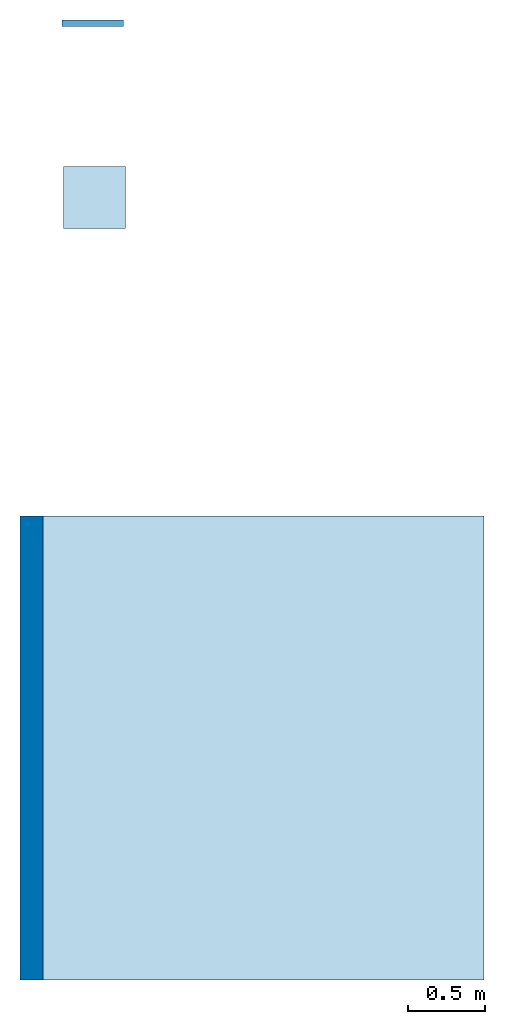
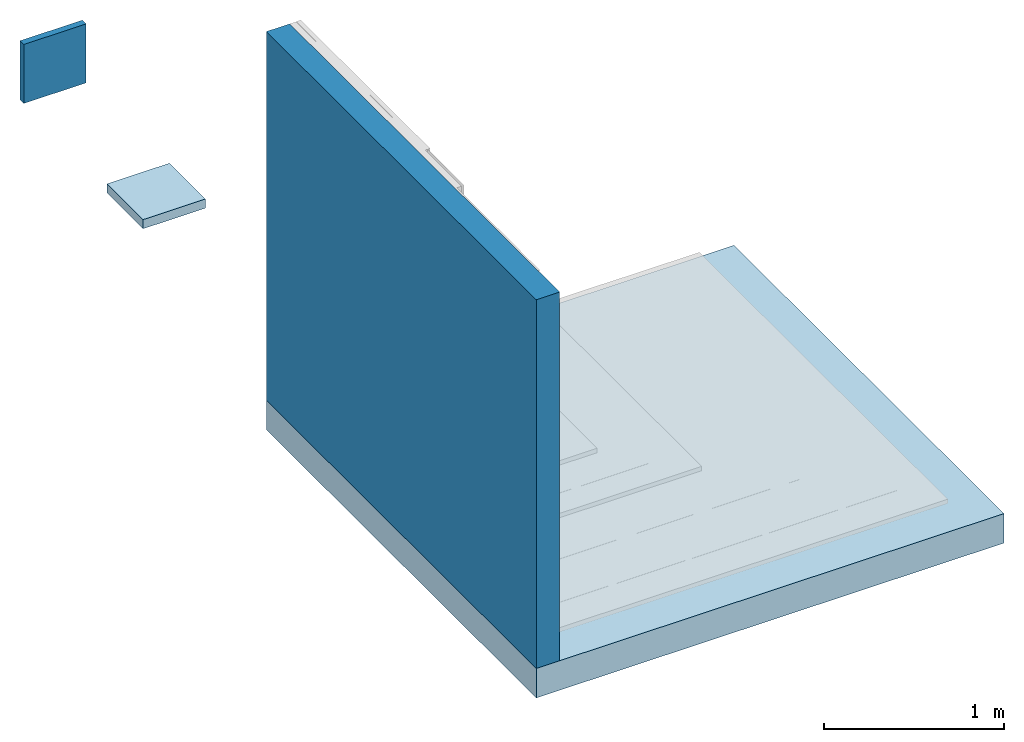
# One storey, part 1 of 2: 2 slabs, 2 walls.
"""IFC2X3 building model written with IfcOpenShell, lengths in metres."""

from ifc_helpers import new_model, entity, si_unit, converted_unit, derived_unit, direction, frame, frame_2d, origin, origin_2d_with_axis, place, context, subcontext, project, spatial, rectangle, extrude, material, layer, layer_set, layer_usage, type_object, element, save


model = new_model("IFC2X3")

# Units and contexts
model_context = context("Model", 3, precision=1e-05, world=origin(), true_north=direction((6.123031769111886e-17, 1.0)))
body_context = subcontext(model_context, "Body", "Model", "MODEL_VIEW")
ifc_project = project(units=[si_unit("LENGTHUNIT", "METRE"), si_unit("AREAUNIT", "SQUARE_METRE"), si_unit("VOLUMEUNIT", "CUBIC_METRE"), converted_unit("PLANEANGLEUNIT", "DEGREE", entity("IfcRatioMeasure", 0.017453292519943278), si_unit("PLANEANGLEUNIT", "RADIAN"), dimensions=[0, 0, 0, 0, 0, 0, 0]), si_unit("MASSUNIT", "GRAM", prefix="KILO"), derived_unit("MASSDENSITYUNIT", [(si_unit("MASSUNIT", "GRAM", prefix="KILO"), 1), (si_unit("LENGTHUNIT", "METRE"), -3)]), derived_unit("IONCONCENTRATIONUNIT", [(si_unit("MASSUNIT", "GRAM", prefix="KILO"), 1), (si_unit("LENGTHUNIT", "METRE"), -3)]), derived_unit("MOMENTOFINERTIAUNIT", [(si_unit("LENGTHUNIT", "METRE"), 4)]), si_unit("TIMEUNIT", "SECOND"), si_unit("FREQUENCYUNIT", "HERTZ"), si_unit("THERMODYNAMICTEMPERATUREUNIT", "DEGREE_CELSIUS"), derived_unit("THERMALTRANSMITTANCEUNIT", [(si_unit("MASSUNIT", "GRAM", prefix="KILO"), 1), (si_unit("THERMODYNAMICTEMPERATUREUNIT", "KELVIN"), -1), (si_unit("TIMEUNIT", "SECOND"), -3)]), derived_unit("THERMALCONDUCTANCEUNIT", [(si_unit("MASSUNIT", "GRAM", prefix="KILO"), 1), (si_unit("THERMODYNAMICTEMPERATUREUNIT", "KELVIN"), -1), (si_unit("TIMEUNIT", "SECOND"), -3), (si_unit("LENGTHUNIT", "METRE"), 1)]), derived_unit("VOLUMETRICFLOWRATEUNIT", [(si_unit("LENGTHUNIT", "METRE"), 3), (si_unit("TIMEUNIT", "SECOND"), -1)]), derived_unit("MASSFLOWRATEUNIT", [(si_unit("MASSUNIT", "GRAM", prefix="KILO"), 1), (si_unit("TIMEUNIT", "SECOND"), -1)]), derived_unit("ROTATIONALFREQUENCYUNIT", [(si_unit("TIMEUNIT", "SECOND"), -1)]), si_unit("ELECTRICCURRENTUNIT", "AMPERE"), si_unit("ELECTRICVOLTAGEUNIT", "VOLT"), si_unit("POWERUNIT", "WATT"), si_unit("FORCEUNIT", "NEWTON", prefix="KILO"), si_unit("ILLUMINANCEUNIT", "LUX"), si_unit("LUMINOUSFLUXUNIT", "LUMEN"), si_unit("LUMINOUSINTENSITYUNIT", "CANDELA"), derived_unit("USERDEFINED", [(si_unit("MASSUNIT", "GRAM", prefix="KILO"), -1), (si_unit("LENGTHUNIT", "METRE"), -2), (si_unit("TIMEUNIT", "SECOND"), 3), (si_unit("LUMINOUSFLUXUNIT", "LUMEN"), 1)]), derived_unit("USERDEFINED", [(si_unit("MASSUNIT", "GRAM", prefix="KILO"), 1), (si_unit("TIMEUNIT", "SECOND"), -3), (si_unit("LENGTHUNIT", "METRE"), 3), (si_unit("ELECTRICCURRENTUNIT", "AMPERE"), -2)]), derived_unit("SOUNDPOWERUNIT", [(si_unit("MASSUNIT", "GRAM", prefix="KILO"), 1), (si_unit("TIMEUNIT", "SECOND"), -3), (si_unit("LENGTHUNIT", "METRE"), 2)]), derived_unit("SOUNDPRESSUREUNIT", [(si_unit("MASSUNIT", "GRAM", prefix="KILO"), 1), (si_unit("LENGTHUNIT", "METRE"), -1), (si_unit("TIMEUNIT", "SECOND"), -2)]), derived_unit("LINEARVELOCITYUNIT", [(si_unit("LENGTHUNIT", "METRE"), 1), (si_unit("TIMEUNIT", "SECOND"), -1)]), si_unit("PRESSUREUNIT", "PASCAL"), derived_unit("USERDEFINED", [(si_unit("MASSUNIT", "GRAM", prefix="KILO"), 1), (si_unit("LENGTHUNIT", "METRE"), -2), (si_unit("TIMEUNIT", "SECOND"), -2)]), derived_unit("LINEARFORCEUNIT", [(si_unit("MASSUNIT", "GRAM", prefix="KILO"), 1), (si_unit("TIMEUNIT", "SECOND"), -2)]), derived_unit("PLANARFORCEUNIT", [(si_unit("MASSUNIT", "GRAM", prefix="KILO"), 1), (si_unit("LENGTHUNIT", "METRE"), -1), (si_unit("TIMEUNIT", "SECOND"), -2)]), derived_unit("SPECIFICHEATCAPACITYUNIT", [(si_unit("THERMODYNAMICTEMPERATUREUNIT", "KELVIN"), -1), (si_unit("LENGTHUNIT", "METRE"), 2), (si_unit("TIMEUNIT", "SECOND"), -2)]), derived_unit("HEATINGVALUEUNIT", [(si_unit("LENGTHUNIT", "METRE"), 2), (si_unit("TIMEUNIT", "SECOND"), -2)]), derived_unit("VAPORPERMEABILITYUNIT", [(si_unit("LENGTHUNIT", "METRE"), -1), (si_unit("TIMEUNIT", "SECOND"), 1)]), derived_unit("DYNAMICVISCOSITYUNIT", [(si_unit("MASSUNIT", "GRAM", prefix="KILO"), 1), (si_unit("TIMEUNIT", "SECOND"), -1), (si_unit("LENGTHUNIT", "METRE"), -1)]), derived_unit("THERMALEXPANSIONCOEFFICIENTUNIT", [(si_unit("THERMODYNAMICTEMPERATUREUNIT", "KELVIN"), -1)]), derived_unit("MODULUSOFELASTICITYUNIT", [(si_unit("MASSUNIT", "GRAM", prefix="KILO"), 1), (si_unit("LENGTHUNIT", "METRE"), -1), (si_unit("TIMEUNIT", "SECOND"), -2)]), derived_unit("ISOTHERMALMOISTURECAPACITYUNIT", [(si_unit("LENGTHUNIT", "METRE"), 3), (si_unit("MASSUNIT", "GRAM", prefix="KILO"), -1)]), derived_unit("MOISTUREDIFFUSIVITYUNIT", [(si_unit("TIMEUNIT", "SECOND"), -1), (si_unit("LENGTHUNIT", "METRE"), 2)])], contexts=[model_context])

# Site, building, storey
site_placement = place(None, origin())
site = spatial("IfcSite", under=ifc_project, at=site_placement, Name="Default", CompositionType="ELEMENT")
building_placement = place(site_placement, origin())
building = spatial("IfcBuilding", under=site, at=building_placement, CompositionType="ELEMENT")
storey_placement = place(building_placement, frame((0.0, 0.0, -0.0025237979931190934)))
storey = spatial("IfcBuildingStorey", under=building, at=storey_placement, Name="ARQ Térreo", CompositionType="ELEMENT", Elevation=-0.0025237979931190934)

# Slabs
ifc_material_1 = material(Name="#concreto")
ifc_layer_1 = layer(ifc_material_1, 0.2)
ifc_layer_set_1 = layer_set([ifc_layer_1], Name="Piso:Piso:LAJE CONCRETO")
ifc_layer_usage_1 = layer_usage(ifc_layer_set_1, "AXIS3", "POSITIVE", 0.0)
slab_type_1 = type_object("IfcSlabType", Name="Piso:Piso:LAJE CONCRETO", PredefinedType="FLOOR", material=ifc_layer_set_1)
slab_1_placement = place(storey_placement, origin())
element("IfcSlab", 1, at=slab_1_placement, inside=storey, type_object=slab_type_1, material=ifc_layer_usage_1, Name="Piso:Piso:LAJE CONCRETO", ObjectType="Piso:Piso:LAJE CONCRETO", PredefinedType="FLOOR", context=body_context, shape_type="SweptSolid", body=[
    extrude(rectangle(XDim=3.0000000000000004, YDim=3.0000000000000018, at=origin_2d_with_axis()), frame((0.9980295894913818, -1.354129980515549, 0.0), z_axis=(0.0, 0.0, -1.0), x_axis=(0.0, 1.0, 0.0)), (0.0, 0.0, 1.0), 0.2),
])
ifc_material_2 = material(Name="#Proteção Mecânica")
ifc_layer_2 = layer(ifc_material_2, 0.03)
ifc_material_3 = material(Name="#Vitpoli Eco")
ifc_layer_3 = layer(ifc_material_3, 0.0009999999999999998)
ifc_material_4 = material(Name="#Primer")
ifc_layer_4 = layer(ifc_material_4, 0.0009999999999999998)
ifc_material_5 = material(Name="#argamassa")
ifc_layer_5 = layer(ifc_material_5, 0.03)
ifc_layer_set_2 = layer_set([ifc_layer_2, ifc_layer_3, ifc_layer_4, ifc_layer_5], Name="Piso:IMPH_VPECO")
ifc_layer_usage_2 = layer_usage(ifc_layer_set_2, "AXIS3", "POSITIVE", 0.0)
slab_type_2 = type_object("IfcSlabType", Name="Piso:IMPH_VPECO", PredefinedType="FLOOR", material=ifc_layer_set_2)
slab_2_placement = place(storey_placement, origin())
element("IfcSlab", 2, at=slab_2_placement, inside=storey, type_object=slab_type_2, material=ifc_layer_usage_2, Name="Piso:IMPH_VPECO", ObjectType="Piso:IMPH_VPECO", PredefinedType="FLOOR", context=body_context, shape_type="SweptSolid", body=[
    extrude(rectangle(XDim=0.4, YDim=0.4, at=origin_2d_with_axis()), frame((-0.020204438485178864, 2.2026053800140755, 0.0), z_axis=(0.0, 0.0, -1.0), x_axis=(0.0, 1.0, 0.0)), (0.0, 0.0, 1.0), 0.062),
])

# Walls
ifc_layer_6 = layer(ifc_material_1, 0.14999999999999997)
ifc_layer_set_3 = layer_set([ifc_layer_6], Name="Parede básica:Parede básica:Parede Concreto")
ifc_layer_usage_3 = layer_usage(ifc_layer_set_3, "AXIS2", "NEGATIVE", 0.07499999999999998)
wall_type_1 = type_object("IfcWallType", Name="Parede básica:Parede básica:Parede Concreto", PredefinedType="STANDARD", material=ifc_layer_set_3)
wall_1_placement = place(storey_placement, frame((-0.4269704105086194, 0.14587001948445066, 0.0), z_axis=(0.0, 0.0, 1.0), x_axis=(0.0, -1.0, 0.0)))
element("IfcWallStandardCase", 3, at=wall_1_placement, inside=storey, type_object=wall_type_1, material=ifc_layer_usage_3, Name="Parede básica:Parede Concreto", ObjectType="Parede básica:Parede Concreto", context=body_context, shape_type="SweptSolid", body=[
    extrude(rectangle(XDim=2.9999999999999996, YDim=0.15000000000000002, at=frame_2d((1.4999999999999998, 0.0), x_axis=(-1.0, 0.0))), origin(), (0.0, 0.0, 1.0), 2.4999999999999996),
])
ifc_layer_7 = layer(ifc_material_2, 0.03)
ifc_layer_8 = layer(ifc_material_3, 0.0009999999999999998)
ifc_layer_9 = layer(ifc_material_4, 0.0009999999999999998)
ifc_layer_10 = layer(ifc_material_5, 0.01)
ifc_layer_set_4 = layer_set([ifc_layer_7, ifc_layer_8, ifc_layer_9, ifc_layer_10], Name="Parede básica:IMPV_VPECO")
ifc_layer_usage_4 = layer_usage(ifc_layer_set_4, "AXIS2", "POSITIVE", -0.021)
wall_type_2 = type_object("IfcWallType", Name="Parede básica:IMPV_VPECO", PredefinedType="STANDARD", material=ifc_layer_set_4)
wall_2_placement = place(storey_placement, frame((-0.231915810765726, 3.3289916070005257, 0.0)))
element("IfcWallStandardCase", 4, at=wall_2_placement, inside=storey, type_object=wall_type_2, material=ifc_layer_usage_4, Name="Parede básica:IMPV_VPECO", ObjectType="Parede básica:IMPV_VPECO", context=body_context, shape_type="SweptSolid", body=[
    extrude(rectangle(XDim=0.4, YDim=0.0420000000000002, at=frame_2d((0.2, 9.71445146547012e-17), x_axis=(-1.0, 0.0))), origin(), (0.0, 0.0, 1.0), 0.4),
])

save(model, "model.ifc")
